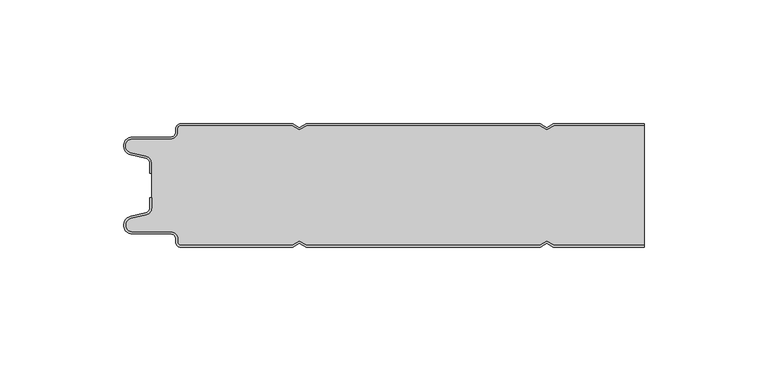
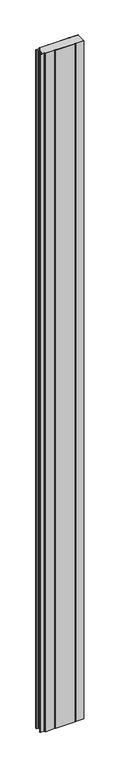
"""IFC4 building model written with IfcOpenShell, lengths in millimetres: plate geometry, PMH_Curtain-Panel_Perfil-Frigorífico : ACH_PMH_Panel-Acústico-Sectorización_50M."""

import ifcopenshell
import ifcopenshell.guid

model = None  # the IFC model being written
_history = None  # IfcOwnerHistory: only IFC2X3 demands one
_inside = {}  # id of a spatial element -> (the spatial element, [elements in it])
_under = {}  # id of a project, library or spatial element -> (it, [spatial elements below it])
_declared = {}  # id of a project -> (the project, [libraries it declares])
_typed = {}  # id of a type object -> (the type object, [elements of that type])
_made_of = {}  # id of a material, layer set ... -> (it, [elements and type objects made of it])


def new_model(schema):
    """Start an empty IFC model of exactly this schema.

    Asked for "IFC4X3", IfcOpenShell would pick the latest addendum, in which some entities
    have other attributes; the version numbers below select the first issue.
    IFC2X3 requires an IfcOwnerHistory on every rooted entity: one is made here for all.
    """
    global model, _history
    if schema == "IFC4X3":
        model = ifcopenshell.file(schema_version=(4, 3, 0, 0))
    else:
        model = ifcopenshell.file(schema=schema)
    _inside.clear()
    _under.clear()
    _declared.clear()
    _typed.clear()
    _made_of.clear()
    _history = None
    if model.schema == "IFC2X3":
        org = make("IfcOrganization", Name="unknown")
        user = make(
            "IfcPersonAndOrganization",
            ThePerson=make("IfcPerson", FamilyName="unknown"),
            TheOrganization=org,
        )
        app = make(
            "IfcApplication",
            ApplicationDeveloper=org,
            Version="unknown",
            ApplicationFullName="unknown",
            ApplicationIdentifier="unknown",
        )
        _history = make(
            "IfcOwnerHistory",
            OwningUser=user,
            OwningApplication=app,
            ChangeAction="ADDED",
            CreationDate=0,
        )
    return model


def make(cls, **values):
    """One entity of the class cls with the attributes given. An attribute that is None is left unset."""
    return model.create_entity(
        cls, **{name: value for name, value in values.items() if value is not None}
    )


def rooted(cls, **values):
    """An entity with a GlobalId (a new one), such as an element, a storey or a relation."""
    return make(cls, GlobalId=ifcopenshell.guid.new(), OwnerHistory=_history, **values)


def si_unit(unit_type, name, prefix=None):
    """IfcSIUnit, for example si_unit("LENGTHUNIT", "METRE", prefix="MILLI")."""
    return make("IfcSIUnit", UnitType=unit_type, Prefix=prefix, Name=name)


def assignment(units):
    """IfcUnitAssignment: the units of a project."""
    return None if units is None else make("IfcUnitAssignment", Units=units)


def point(xyz):
    """IfcCartesianPoint."""
    return None if xyz is None else make("IfcCartesianPoint", Coordinates=xyz)


def direction(xyz):
    """IfcDirection."""
    return None if xyz is None else make("IfcDirection", DirectionRatios=xyz)


def frame(location, z_axis=None, x_axis=None):
    """IfcAxis2Placement3D, a coordinate frame: its origin and axes. An axis left out is left unset."""
    return make(
        "IfcAxis2Placement3D",
        Location=point(location),
        Axis=direction(z_axis),
        RefDirection=direction(x_axis),
    )


def frame_2d(location, x_axis=None):
    """IfcAxis2Placement2D, a coordinate frame in the plane: its origin and x axis."""
    return make(
        "IfcAxis2Placement2D", Location=point(location), RefDirection=direction(x_axis)
    )


def origin():
    """The frame at (0, 0, 0) with its axes left unset."""
    return frame((0.0, 0.0, 0.0))


def origin_with_axes():
    """The frame at (0, 0, 0) with the z axis (0, 0, 1) and the x axis (1, 0, 0) written out."""
    return frame((0.0, 0.0, 0.0), z_axis=(0.0, 0.0, 1.0), x_axis=(1.0, 0.0, 0.0))


def place(relative_to, where):
    """IfcLocalPlacement: puts the frame where relative to a parent placement (None: the world)."""
    return make(
        "IfcLocalPlacement", PlacementRelTo=relative_to, RelativePlacement=where
    )


def context(
    kind, dimensions, precision=None, world=None, true_north=None, identifier=None
):
    """IfcGeometricRepresentationContext, for example the 3D "Model" context."""
    return make(
        "IfcGeometricRepresentationContext",
        ContextIdentifier=identifier,
        ContextType=kind,
        CoordinateSpaceDimension=dimensions,
        Precision=precision,
        WorldCoordinateSystem=world,
        TrueNorth=true_north,
    )


def project(units=None, contexts=None):
    """IfcProject with its units and contexts."""
    return rooted(
        "IfcProject",
        Name="project",
        RepresentationContexts=contexts,
        UnitsInContext=assignment(units),
    )


def spatial(cls, under=None, at=None, **own):
    """A site, building, storey or space (cls), placed at a placement, below another one or the project."""
    s = rooted(cls, ObjectPlacement=at, **own)
    if under is not None:
        _under.setdefault(under.id(), (under, []))[1].append(s)
    return s


def polyline(points):
    """IfcPolyline through the points."""
    return make("IfcPolyline", Points=[point(p) for p in points])


def circle_curve(where, radius):
    """IfcCircle in the frame where."""
    return make("IfcCircle", Position=where, Radius=radius)


def trimmed(basis, trim1, trim2, sense, master):
    """IfcTrimmedCurve: the piece of a basis curve between two trims."""
    return make(
        "IfcTrimmedCurve",
        BasisCurve=basis,
        Trim1=trim1,
        Trim2=trim2,
        SenseAgreement=sense,
        MasterRepresentation=master,
    )


def segment(curve, same_sense, transition):
    """IfcCompositeCurveSegment."""
    return make(
        "IfcCompositeCurveSegment",
        Transition=transition,
        SameSense=same_sense,
        ParentCurve=curve,
    )


def composite_curve(segments, self_intersect=None):
    """IfcCompositeCurve: segments joined end to end."""
    return make("IfcCompositeCurve", Segments=segments, SelfIntersect=self_intersect)


def outline(outer, holes=None, kind="AREA"):
    """IfcArbitraryClosedProfileDef: a profile drawn as a closed curve; with holes, ...WithVoids."""
    if holes is None:
        return make("IfcArbitraryClosedProfileDef", ProfileType=kind, OuterCurve=outer)
    return make(
        "IfcArbitraryProfileDefWithVoids",
        ProfileType=kind,
        OuterCurve=outer,
        InnerCurves=holes,
    )


def extrude(swept, where, along, depth):
    """IfcExtrudedAreaSolid: the profile swept, set in the frame where, extruded along a direction by depth."""
    return make(
        "IfcExtrudedAreaSolid",
        SweptArea=swept,
        Position=where,
        ExtrudedDirection=direction(along),
        Depth=depth,
    )


def shape(context_of_items, identifier, shape_type, items):
    """IfcShapeRepresentation: the items that make up one representation, for example the "Body"."""
    return make(
        "IfcShapeRepresentation",
        ContextOfItems=context_of_items,
        RepresentationIdentifier=identifier,
        RepresentationType=shape_type,
        Items=items,
    )


def source(mapping_origin, context_of_items, identifier, shape_type, items):
    """IfcRepresentationMap: a shape defined once, which mapped items show again and again."""
    return make(
        "IfcRepresentationMap",
        MappingOrigin=mapping_origin,
        MappedRepresentation=shape(context_of_items, identifier, shape_type, items),
    )


def transform(
    local_origin,
    x_axis=None,
    y_axis=None,
    z_axis=None,
    scale=None,
    scale2=None,
    scale3=None,
    uniform=True,
):
    """IfcCartesianTransformationOperator3D, or its non-uniform kind. x_axis, y_axis, z_axis: its Axis1, 2, 3."""
    if uniform:
        return make(
            "IfcCartesianTransformationOperator3D",
            Axis1=direction(x_axis),
            Axis2=direction(y_axis),
            LocalOrigin=point(local_origin),
            Scale=scale,
            Axis3=direction(z_axis),
        )
    return make(
        "IfcCartesianTransformationOperator3DnonUniform",
        Axis1=direction(x_axis),
        Axis2=direction(y_axis),
        LocalOrigin=point(local_origin),
        Scale=scale,
        Axis3=direction(z_axis),
        Scale2=scale2,
        Scale3=scale3,
    )


def mapped(mapping_source, mapping_target):
    """IfcMappedItem: shows the shape of a source again, moved by a transform."""
    return make(
        "IfcMappedItem", MappingSource=mapping_source, MappingTarget=mapping_target
    )


def made_of(thing, what):
    """Note that an element or type object is made of a material, layer set ...; save() writes the relation."""
    if what is not None:
        _made_of.setdefault(what.id(), (what, []))[1].append(thing)
    return thing


def element(
    cls,
    number,
    at=None,
    inside=None,
    cuts=None,
    type_object=None,
    material=None,
    context=None,
    identifier="Body",
    shape_type=None,
    held_by="IfcProductDefinitionShape",
    body=None,
    shapes=None,
    **own,
):
    """One element of the class cls, such as IfcWall. Its Tag is "e" and its number.

    at: its placement. inside: the storey or other place that contains it. cuts: it is an
    opening in that element (IfcRelVoidsElement). A single representation is given by context,
    identifier, shape_type and body (its items); several are given by shapes. held_by: the class
    of the entity that holds the representations. save() writes the other relations.
    """
    e = rooted(cls, Tag="e%d" % number, ObjectPlacement=at, **own)
    if body is not None:
        shapes = [shape(context, identifier, shape_type, body)]
    if shapes is not None:
        e.Representation = make(held_by, Representations=shapes)
    if inside is not None:
        _inside.setdefault(inside.id(), (inside, []))[1].append(e)
    if cuts is not None:
        rooted(
            "IfcRelVoidsElement", RelatingBuildingElement=cuts, RelatedOpeningElement=e
        )
    if type_object is not None:
        _typed.setdefault(type_object.id(), (type_object, []))[1].append(e)
    return made_of(e, material)


def aggregate(whole, parts):
    """IfcRelAggregates: a whole, such as a stair, and the parts it consists of."""
    return rooted("IfcRelAggregates", RelatingObject=whole, RelatedObjects=parts)


def save(model, path):
    """Write the relations noted so far, then the file.

    IfcRelAggregates (storeys below a building ...), IfcRelContainedInSpatialStructure (elements
    in a storey), IfcRelDefinesByType, IfcRelAssociatesMaterial and IfcRelDeclares: one each for
    every whole, place, type object, material and project.
    """
    for whole, parts in _under.values():
        aggregate(whole, parts)
    for where, things in _inside.values():
        rooted(
            "IfcRelContainedInSpatialStructure",
            RelatedElements=things,
            RelatingStructure=where,
        )
    for kind, things in _typed.values():
        rooted("IfcRelDefinesByType", RelatedObjects=things, RelatingType=kind)
    for what, things in _made_of.values():
        rooted("IfcRelAssociatesMaterial", RelatedObjects=things, RelatingMaterial=what)
    for by, libraries in _declared.values():
        rooted("IfcRelDeclares", RelatingContext=by, RelatedDefinitions=libraries)
    model.write(path)


def plate_1d5e609f(model_context):
    return source(origin(), model_context, "Body", "SweptSolid", [
        extrude(outline(composite_curve([segment(polyline([(-100.0119739, 15.878557), (-100.0119739, 20.0), (-99.2119739, 20.0), (-99.2119739, 15.878557)]), True, "CONTINUOUS"), segment(trimmed(circle_curve(frame_2d((-102.0119739, 15.878557)), 2.8), [point((-99.2119739, 15.878557))], [point((-101.3821109, 13.1503208))], False, "CARTESIAN"), True, "CONTINUOUS"), segment(polyline([(-101.3821109, 13.1503208), (-107.5418369, 11.728236)]), True, "CONTINUOUS"), segment(trimmed(circle_curve(frame_2d((-106.9119739, 9.0)), 2.8), [point((-107.5418369, 11.728236))], [point((-106.9119739, 6.2))], True, "CARTESIAN"), True, "CONTINUOUS"), segment(polyline([(-106.9119739, 6.2), (-91.4119739, 6.2)]), True, "CONTINUOUS"), segment(trimmed(circle_curve(frame_2d((-91.4119739, 3.4)), 2.8), [point((-91.4119739, 6.2))], [point((-88.6119739, 3.4))], False, "CARTESIAN"), True, "CONTINUOUS"), segment(polyline([(-88.6119739, 3.4), (-88.6119739, 2.0)]), True, "CONTINUOUS"), segment(trimmed(circle_curve(frame_2d((-87.4119739, 2.0)), 1.2), [point((-88.6119739, 2.0))], [point((-87.4119739, 0.8))], True, "CARTESIAN"), True, "CONTINUOUS"), segment(polyline([(-87.4119739, 0.8), (-42.3263328, 0.8), (-39.4119739, 2.482606), (-36.4976151, 0.8), (57.6736672, 0.8), (60.5880261, 2.482606), (63.5023849, 0.8), (100.0119739, 0.8), (100.0119739, 0.0), (63.2880255, 0.0), (60.5880261, 1.5588455), (57.8880266, 0.0), (-36.7119745, 0.0), (-39.4119739, 1.5588455), (-42.1119734, 0.0), (-87.4119739, 0.0)]), True, "CONTINUOUS"), segment(trimmed(circle_curve(frame_2d((-87.4119739, 2.0)), 2.0), [point((-87.4119739, 0.0))], [point((-89.4119739, 2.0))], False, "CARTESIAN"), True, "CONTINUOUS"), segment(polyline([(-89.4119739, 2.0), (-89.4119739, 3.4)]), True, "CONTINUOUS"), segment(trimmed(circle_curve(frame_2d((-91.4119739, 3.4)), 2.0), [point((-89.4119739, 3.4))], [point((-91.4119739, 5.4))], True, "CARTESIAN"), True, "CONTINUOUS"), segment(polyline([(-91.4119739, 5.4), (-106.9119739, 5.4)]), True, "CONTINUOUS"), segment(trimmed(circle_curve(frame_2d((-106.9119739, 9.0)), 3.6), [point((-106.9119739, 5.4))], [point((-107.7217979, 12.5077322))], False, "CARTESIAN"), True, "CONTINUOUS"), segment(polyline([(-107.7217979, 12.5077322), (-101.5620718, 13.929817)]), True, "CONTINUOUS"), segment(trimmed(circle_curve(frame_2d((-102.0119739, 15.878557)), 2.0), [point((-101.5620718, 13.929817))], [point((-100.0119739, 15.878557))], True, "CARTESIAN"), True, "CONTINUOUS")], self_intersect=False)), origin_with_axes(), (0.0, 0.0, 1.0), 3500.0),
        extrude(outline(composite_curve([segment(trimmed(circle_curve(frame_2d((-102.0119739, 34.1214426)), 2.8), [point((-99.2119739, 34.1214426))], [point((-101.3821109, 36.8496788))], True, "CARTESIAN"), True, "CONTINUOUS"), segment(polyline([(-101.3821109, 36.8496788), (-107.541837, 38.2717638)]), True, "CONTINUOUS"), segment(trimmed(circle_curve(frame_2d((-106.911974, 41.0)), 2.8), [point((-107.541837, 38.2717638))], [point((-106.911974, 43.8))], False, "CARTESIAN"), True, "CONTINUOUS"), segment(polyline([(-106.911974, 43.8), (-91.411974, 43.8)]), True, "CONTINUOUS"), segment(trimmed(circle_curve(frame_2d((-91.411974, 46.6)), 2.8), [point((-91.411974, 43.8))], [point((-88.611974, 46.6))], True, "CARTESIAN"), True, "CONTINUOUS"), segment(polyline([(-88.611974, 46.6), (-88.611974, 48.0)]), True, "CONTINUOUS"), segment(trimmed(circle_curve(frame_2d((-87.411974, 48.0)), 1.2), [point((-88.611974, 48.0))], [point((-87.411974, 49.2))], False, "CARTESIAN"), True, "CONTINUOUS"), segment(polyline([(-87.411974, 49.2), (-42.3263329, 49.2), (-39.411974, 47.517394), (-36.4976152, 49.2), (57.6736671, 49.2), (60.588026, 47.517394), (63.5023848, 49.2), (100.0119739, 49.2), (100.0119739, 0.8), (63.5023848, 0.8), (60.588026, 2.482606), (57.6736671, 0.8), (-36.4976152, 0.8), (-39.411974, 2.482606), (-42.3263329, 0.8), (-87.411974, 0.8)]), True, "CONTINUOUS"), segment(trimmed(circle_curve(frame_2d((-87.411974, 2.0)), 1.2), [point((-87.411974, 0.8))], [point((-88.611974, 2.0))], False, "CARTESIAN"), True, "CONTINUOUS"), segment(polyline([(-88.611974, 2.0), (-88.611974, 3.4)]), True, "CONTINUOUS"), segment(trimmed(circle_curve(frame_2d((-91.411974, 3.4)), 2.8), [point((-88.611974, 3.4))], [point((-91.411974, 6.2))], True, "CARTESIAN"), True, "CONTINUOUS"), segment(polyline([(-91.411974, 6.2), (-106.911974, 6.2)]), True, "CONTINUOUS"), segment(trimmed(circle_curve(frame_2d((-106.911974, 9.0)), 2.8), [point((-106.911974, 6.2))], [point((-107.541837, 11.7282362))], False, "CARTESIAN"), True, "CONTINUOUS"), segment(polyline([(-107.541837, 11.7282362), (-101.3821109, 13.1503212)]), True, "CONTINUOUS"), segment(trimmed(circle_curve(frame_2d((-102.0119739, 15.8785573)), 2.8), [point((-101.3821109, 13.1503212))], [point((-99.2119739, 15.8785573))], True, "CARTESIAN"), True, "CONTINUOUS"), segment(polyline([(-99.2119739, 15.8785573), (-99.2119739, 34.1214426)]), True, "CONTINUOUS")], self_intersect=False)), origin_with_axes(), (0.0, 0.0, 1.0), 3500.0),
        extrude(outline(composite_curve([segment(trimmed(circle_curve(frame_2d((-102.0119739, 34.121443)), 2.0), [point((-100.0119739, 34.121443))], [point((-101.5620718, 36.0701831))], True, "CARTESIAN"), True, "CONTINUOUS"), segment(polyline([(-101.5620718, 36.0701831), (-107.7217978, 37.492268)]), True, "CONTINUOUS"), segment(trimmed(circle_curve(frame_2d((-106.9119739, 41.0)), 3.6), [point((-107.7217978, 37.492268))], [point((-106.9119739, 44.6))], False, "CARTESIAN"), True, "CONTINUOUS"), segment(polyline([(-106.9119739, 44.6), (-91.4119739, 44.6)]), True, "CONTINUOUS"), segment(trimmed(circle_curve(frame_2d((-91.4119739, 46.6)), 2.0), [point((-91.4119739, 44.6))], [point((-89.4119739, 46.6))], True, "CARTESIAN"), True, "CONTINUOUS"), segment(polyline([(-89.4119739, 46.6), (-89.4119739, 48.0)]), True, "CONTINUOUS"), segment(trimmed(circle_curve(frame_2d((-87.4119739, 48.0)), 2.0), [point((-89.4119739, 48.0))], [point((-87.4119739, 50.0))], False, "CARTESIAN"), True, "CONTINUOUS"), segment(polyline([(-87.4119739, 50.0), (-42.1119734, 50.0), (-39.4119739, 48.4411545), (-36.7119745, 50.0), (57.8880266, 50.0), (60.5880261, 48.4411545), (63.2880255, 50.0), (100.0119739, 50.0), (100.0119739, 49.2), (63.5023849, 49.2), (60.5880261, 47.517394), (57.6736672, 49.2), (-36.4976151, 49.2), (-39.4119739, 47.517394), (-42.3263328, 49.2), (-87.4119739, 49.2)]), True, "CONTINUOUS"), segment(trimmed(circle_curve(frame_2d((-87.4119739, 48.0)), 1.2), [point((-87.4119739, 49.2))], [point((-88.6119739, 48.0))], True, "CARTESIAN"), True, "CONTINUOUS"), segment(polyline([(-88.6119739, 48.0), (-88.6119739, 46.6)]), True, "CONTINUOUS"), segment(trimmed(circle_curve(frame_2d((-91.4119739, 46.6)), 2.8), [point((-88.6119739, 46.6))], [point((-91.4119739, 43.8))], False, "CARTESIAN"), True, "CONTINUOUS"), segment(polyline([(-91.4119739, 43.8), (-106.9119739, 43.8)]), True, "CONTINUOUS"), segment(trimmed(circle_curve(frame_2d((-106.9119739, 41.0)), 2.8), [point((-106.9119739, 43.8))], [point((-107.541837, 38.2717638))], True, "CARTESIAN"), True, "CONTINUOUS"), segment(polyline([(-107.541837, 38.2717638), (-101.3821109, 36.849679)]), True, "CONTINUOUS"), segment(trimmed(circle_curve(frame_2d((-102.0119739, 34.121443)), 2.8), [point((-101.3821109, 36.849679))], [point((-99.2119739, 34.121443))], False, "CARTESIAN"), True, "CONTINUOUS"), segment(polyline([(-99.2119739, 34.121443), (-99.2119739, 30.0), (-100.0119739, 30.0), (-100.0119739, 34.121443)]), True, "CONTINUOUS")], self_intersect=False)), origin_with_axes(), (0.0, 0.0, 1.0), 3500.0),
    ])


if __name__ == "__main__":
    model = new_model("IFC4")
    model_context = context("Model", 3, world=origin())
    ifc_project = project(units=[si_unit("LENGTHUNIT", "METRE", prefix="MILLI")], contexts=[model_context])
    site = spatial("IfcSite", under=ifc_project)
    building = spatial("IfcBuilding", under=site)
    placement = place(None, origin())
    plate_shape = plate_1d5e609f(model_context)
    element("IfcPlate", 1, ObjectType="PMH_Curtain-Panel_Perfil-Frigorífico : ACH_PMH_Panel-Acústico-Sectorización_50M", at=placement, inside=building, context=model_context, shape_type="MappedRepresentation", body=[
        mapped(plate_shape, transform((0.0, 0.0, 0.0), x_axis=(1.0, 0.0, 0.0), y_axis=(0.0, 1.0, 0.0), z_axis=(0.0, 0.0, 1.0))),
    ])
    save(model, "model.ifc")
